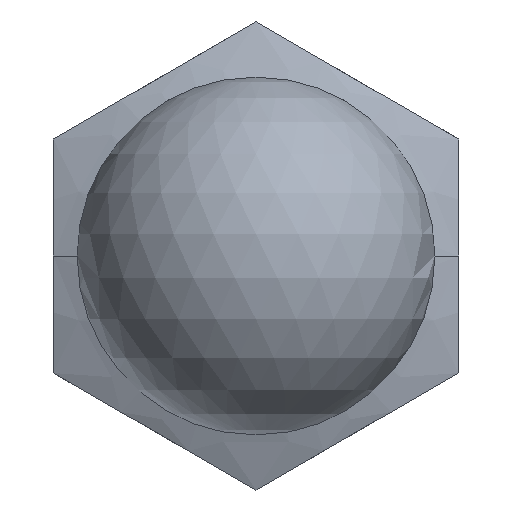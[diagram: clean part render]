
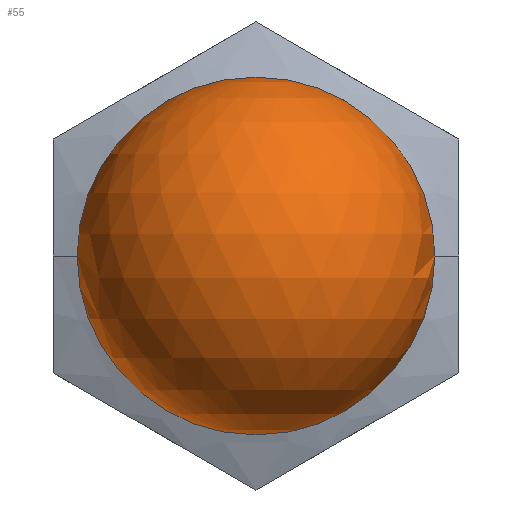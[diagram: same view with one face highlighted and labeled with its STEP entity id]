
A CAD part, front view. The second image highlights one B-rep face of the part: STEP entity #55.
In plain terms, the highlighted spherical face has radius 7.5 mm.
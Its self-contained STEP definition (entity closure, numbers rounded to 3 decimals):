
#55=ADVANCED_FACE('NONE',(#127),#128,.T.);
#127=FACE_OUTER_BOUND('',#215,.T.);
#128=SPHERICAL_SURFACE('',#216,7.5);
#215=EDGE_LOOP('',(#310,#311));
#216=AXIS2_PLACEMENT_3D('',#312,#313,#314);
#310=ORIENTED_EDGE('',*,*,#524,.F.);
#311=ORIENTED_EDGE('',*,*,#525,.F.);
#312=CARTESIAN_POINT('',(0.,-14.5,0.0));
#313=DIRECTION('',(0.0,0.0,1.0));
#314=DIRECTION('',(-1.0,0.,0.0));
#524=EDGE_CURVE('',#618,#619,#620,.T.);
#525=EDGE_CURVE('',#619,#618,#621,.T.);
#618=VERTEX_POINT('',#777);
#619=VERTEX_POINT('',#778);
#620=CIRCLE('',#779,7.5);
#621=CIRCLE('',#780,7.5);
#777=CARTESIAN_POINT('',(0.,-14.5,7.5));
#778=CARTESIAN_POINT('',(0.,-14.5,-7.5));
#779=AXIS2_PLACEMENT_3D('',#1040,#1041,#1042);
#780=AXIS2_PLACEMENT_3D('',#1043,#1044,#1045);
#1040=CARTESIAN_POINT('',(0.,-14.5,0.0));
#1041=DIRECTION('',(-0.0,1.0,0.0));
#1042=DIRECTION('',(0.0,0.0,-1.0));
#1043=CARTESIAN_POINT('',(0.,-14.5,0.0));
#1044=DIRECTION('',(-0.0,1.0,0.0));
#1045=DIRECTION('',(0.0,0.0,-1.0));
